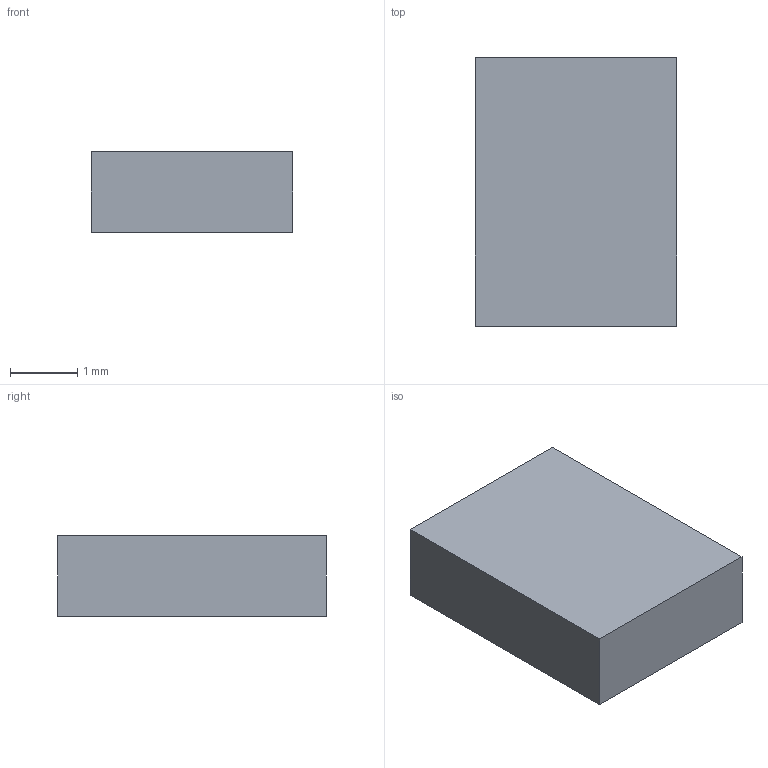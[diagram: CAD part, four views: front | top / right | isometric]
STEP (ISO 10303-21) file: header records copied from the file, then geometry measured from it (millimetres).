
FILE_DESCRIPTION(('Open CASCADE Model'),'2;1');
FILE_NAME('Open CASCADE Shape Model','2026-10-17T17:22:13',('Author'),( 'Open CASCADE'),'Open CASCADE STEP processor 7.9','Open CASCADE 7.9' ,'Unknown');
FILE_SCHEMA(('AUTOMOTIVE_DESIGN { 1 0 10303 214 1 1 1 1 }'));
Length unit declared in the file: millimetre
Products named in the file (1): Open CASCADE STEP translator 7.9 20
Bounding box: 3 x 4 x 1.2 mm (x, y, z)
Volume: 14.4 mm3; surface area: 40.8 mm2
Topology: 1 solids, 1 shells, 6 faces, 12 edges, 8 vertices
Faces by surface type: plane 6
Entity records: 322 total; most frequent: CARTESIAN_POINT 51, DIRECTION 50, LINE 36, VECTOR 36, ORIENTED_EDGE 24, PCURVE 24, DEFINITIONAL_REPRESENTATION 24, EDGE_CURVE 12
